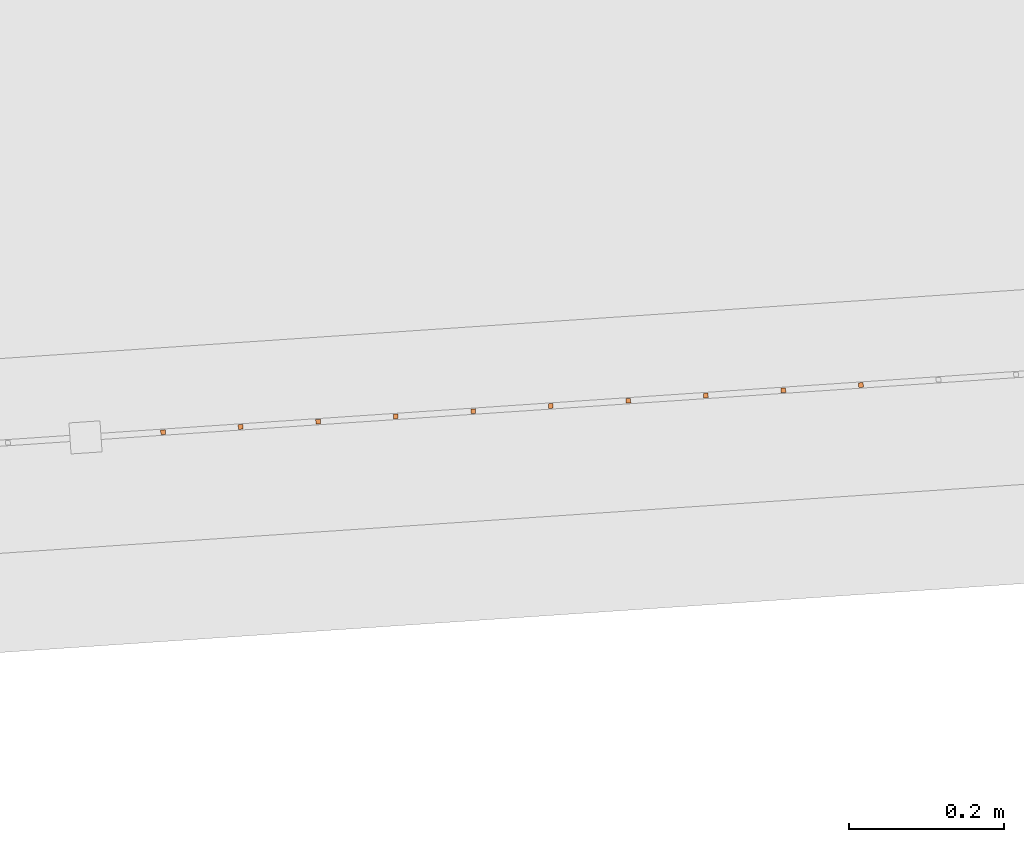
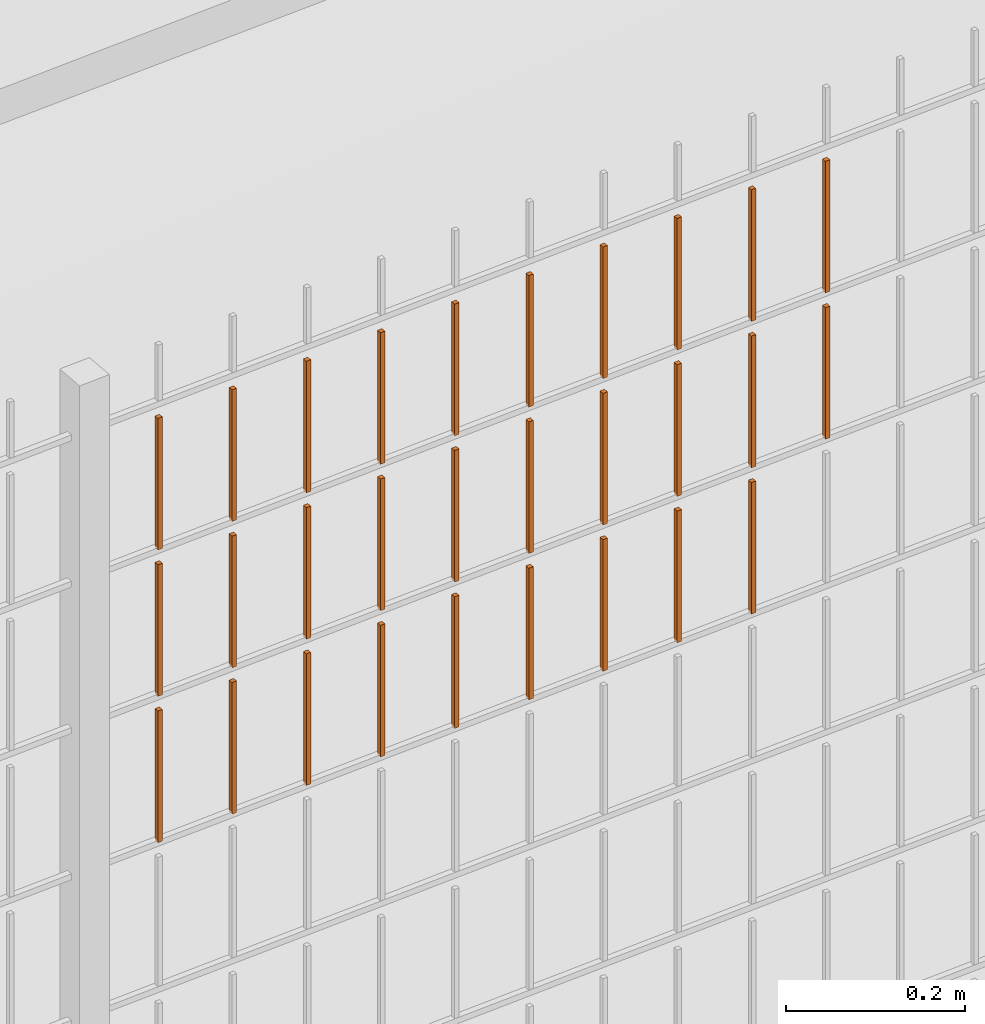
# One storey, part 279 of 1809: 29 proxies, 1 element without a shape of its own.
"""IFC2X3 building model written with IfcOpenShell, lengths in millimetres."""

from ifc_helpers import new_model, entity, si_unit, converted_unit, derived_unit, money_unit, direction, frame, origin_with_axes, place, context, subcontext, project, spatial, faceted_brep, source, transform, mapped, material, type_object, element, aggregate, save


model = new_model("IFC2X3")

# Units and contexts
model_context = context("Model", 3, precision=0.01, world=origin_with_axes(), true_north=direction((0.0, 1.0)))
body_context = subcontext(model_context, "Body", "Model", "MODEL_VIEW")
ifc_project = project(units=[si_unit("LENGTHUNIT", "METRE", prefix="MILLI"), si_unit("AREAUNIT", "SQUARE_METRE"), si_unit("VOLUMEUNIT", "CUBIC_METRE"), converted_unit("PLANEANGLEUNIT", "DEGREE", entity("IfcPlaneAngleMeasure", 0.0174532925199), si_unit("PLANEANGLEUNIT", "RADIAN"), dimensions=[0, 0, 0, 0, 0, 0, 0]), si_unit("SOLIDANGLEUNIT", "STERADIAN"), money_unit("EUR"), converted_unit("TIMEUNIT", "Year", entity("IfcTimeMeasure", 31556926.0), si_unit("TIMEUNIT", "SECOND"), dimensions=[0, 0, 1, 0, 0, 0, 0]), si_unit("MASSUNIT", "GRAM", prefix="KILO"), si_unit("THERMODYNAMICTEMPERATUREUNIT", "DEGREE_CELSIUS"), si_unit("LUMINOUSINTENSITYUNIT", "LUMEN"), si_unit("ENERGYUNIT", "JOULE", prefix="MEGA"), derived_unit("THERMALCONDUCTANCEUNIT", [(si_unit("POWERUNIT", "WATT"), 1), (si_unit("LENGTHUNIT", "METRE"), -1), (si_unit("THERMODYNAMICTEMPERATUREUNIT", "KELVIN"), -1)]), derived_unit("SPECIFICHEATCAPACITYUNIT", [(si_unit("ENERGYUNIT", "JOULE"), 1), (si_unit("MASSUNIT", "GRAM", prefix="KILO"), -1), (si_unit("THERMODYNAMICTEMPERATUREUNIT", "KELVIN"), -1)]), derived_unit("MASSDENSITYUNIT", [(si_unit("MASSUNIT", "GRAM", prefix="KILO"), 1), (si_unit("VOLUMEUNIT", "CUBIC_METRE"), -1)])], contexts=[model_context])

# Site, building, storey
site_placement = place(None, origin_with_axes())
site = spatial("IfcSite", under=ifc_project, at=site_placement, Name="Politse- ja Piirivalveameti ning Päästeameti ühishoone", CompositionType="ELEMENT")
building_placement = place(site_placement, origin_with_axes())
building = spatial("IfcBuilding", under=site, at=building_placement, Name="Politse- ja Piirivalveameti ning Päästeameti ühishoone", CompositionType="ELEMENT")
storey_placement = place(building_placement, origin_with_axes())
storey = spatial("IfcBuildingStorey", under=building, at=storey_placement, Name="Esimene korrus", CompositionType="ELEMENT", Elevation=0.0)

# Proxies
building_element_proxy_type_1 = type_object("IfcBuildingElementProxyType", Name="Railing Type", PredefinedType="NOTDEFINED")
proxy_1_placement = place(storey_placement, frame((89252.001212, -29183.4766571, 203.661247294), z_axis=(0.0, 0.0, 1.0), x_axis=(1.0, 0.0, 0.0)))
proxy_1 = element("IfcBuildingElementProxy", 1, at=proxy_1_placement, inside=storey, type_object=building_element_proxy_type_1, Name="PIIRDEAED")
ifc_material = material(Name="ET-03_Raud")
building_element_proxy_type_2 = type_object("IfcBuildingElementProxyType", Name="IfcBuildingElementProxy", PredefinedType="NOTDEFINED")
shared_shape_1 = source(origin_with_axes(), body_context, "Body", "Brep", [
    faceted_brep([(3.0, 3.0, -0.000752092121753), (-3.0, 3.0, -0.000752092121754), (-3.0, 3.0, 179.99926046), (3.0, 3.0, 179.99926046), (3.0, -3.0, 0.000752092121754), (-3.0, -3.0, 0.000752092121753), (-3.0, -3.0, 180.000764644), (3.0, -3.0, 180.000764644)], [[[0, 1, 2, 3]], [[0, 4, 5, 1]], [[1, 5, 6, 2]], [[3, 2, 6, 7]], [[4, 0, 3, 7]], [[5, 4, 7, 6]]]),
])
proxy_2_placement = place(proxy_1_placement, frame((-52107.9521734, -20817.4702826, 1814.14129199), z_axis=(0.0, 0.0, 1.0), x_axis=(1.0, 0.0, 0.0)))
proxy_2 = element("IfcBuildingElementProxy", 2, at=proxy_2_placement, type_object=building_element_proxy_type_2, material=ifc_material, Name="BALUSTER - 001", context=body_context, shape_type="MappedRepresentation", body=[
    mapped(shared_shape_1, transform((0.0, 0.0, 0.0), x_axis=(-0.0673926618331, 0.997726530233, 0.0), y_axis=(-0.997726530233, -0.0673926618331, 0.0), z_axis=(0.0, 0.0, 1.0))),
])
shared_shape_2 = source(origin_with_axes(), body_context, "Body", "Brep", [
    faceted_brep([(3.0, 3.0, -0.000752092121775), (-3.0, 3.0, -0.000752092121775), (-3.0, 3.0, 179.99926046), (3.0, 3.0, 179.99926046), (3.0, -3.0, 0.000752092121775), (-3.0, -3.0, 0.000752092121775), (-3.0, -3.0, 180.000764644), (3.0, -3.0, 180.000764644)], [[[0, 1, 2, 3]], [[0, 4, 5, 1]], [[1, 5, 6, 2]], [[3, 2, 6, 7]], [[4, 0, 3, 7]], [[5, 4, 7, 6]]]),
])
proxy_3_placement = place(proxy_1_placement, frame((-51808.6342143, -20797.252484, 1814.2165012), z_axis=(0.0, 0.0, 1.0), x_axis=(1.0, 0.0, 0.0)))
proxy_3 = element("IfcBuildingElementProxy", 3, at=proxy_3_placement, type_object=building_element_proxy_type_2, material=ifc_material, Name="BALUSTER - 001", context=body_context, shape_type="MappedRepresentation", body=[
    mapped(shared_shape_2, transform((0.0, 0.0, 0.0), x_axis=(-0.0673926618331, 0.997726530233, 0.0), y_axis=(-0.997726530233, -0.0673926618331, 0.0), z_axis=(0.0, 0.0, 1.0))),
])
shared_shape_3 = source(origin_with_axes(), body_context, "Body", "Brep", [
    faceted_brep([(3.0, 3.0, -0.000752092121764), (-3.0, 3.0, -0.000752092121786), (-3.0, 3.0, 179.99926046), (3.0, 3.0, 179.99926046), (3.0, -3.0, 0.000752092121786), (-3.0, -3.0, 0.000752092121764), (-3.0, -3.0, 180.000764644), (3.0, -3.0, 180.000764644)], [[[0, 1, 2, 3]], [[0, 4, 5, 1]], [[1, 5, 6, 2]], [[3, 2, 6, 7]], [[4, 0, 3, 7]], [[5, 4, 7, 6]]]),
])
proxy_4_placement = place(proxy_1_placement, frame((-51708.8615613, -20790.5132179, 1414.24157094), z_axis=(0.0, 0.0, 1.0), x_axis=(1.0, 0.0, 0.0)))
proxy_4 = element("IfcBuildingElementProxy", 4, at=proxy_4_placement, type_object=building_element_proxy_type_2, material=ifc_material, Name="BALUSTER - 001", context=body_context, shape_type="MappedRepresentation", body=[
    mapped(shared_shape_3, transform((0.0, 0.0, 0.0), x_axis=(-0.0673926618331, 0.997726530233, 0.0), y_axis=(-0.997726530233, -0.0673926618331, 0.0), z_axis=(0.0, 0.0, 1.0))),
])
proxy_5_placement = place(proxy_1_placement, frame((-51708.8615613, -20790.5132179, 1614.24157094), z_axis=(0.0, 0.0, 1.0), x_axis=(1.0, 0.0, 0.0)))
proxy_5 = element("IfcBuildingElementProxy", 5, at=proxy_5_placement, type_object=building_element_proxy_type_2, material=ifc_material, Name="BALUSTER - 001", context=body_context, shape_type="MappedRepresentation", body=[
    mapped(shared_shape_3, transform((0.0, 0.0, 0.0), x_axis=(-0.0673926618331, 0.997726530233, 0.0), y_axis=(-0.997726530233, -0.0673926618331, 0.0), z_axis=(0.0, 0.0, 1.0))),
])
shared_shape_4 = source(origin_with_axes(), body_context, "Body", "Brep", [
    faceted_brep([(3.0, 3.0, -0.000752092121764), (-3.0, 3.0, -0.000752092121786), (-3.0, 3.0, 179.99926046), (3.0, 3.0, 179.99926046), (3.0, -3.0, 0.000752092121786), (-3.0, -3.0, 0.000752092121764), (-3.0, -3.0, 180.000764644), (3.0, -3.0, 180.000764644)], [[[0, 1, 2, 3]], [[0, 4, 5, 1]], [[1, 5, 6, 2]], [[3, 2, 6, 7]], [[4, 0, 3, 7]], [[5, 4, 7, 6]]]),
])
proxy_6_placement = place(proxy_1_placement, frame((-51708.8615613, -20790.5132179, 1814.24157094), z_axis=(0.0, 0.0, 1.0), x_axis=(1.0, 0.0, 0.0)))
proxy_6 = element("IfcBuildingElementProxy", 6, at=proxy_6_placement, type_object=building_element_proxy_type_2, material=ifc_material, Name="BALUSTER - 001", context=body_context, shape_type="MappedRepresentation", body=[
    mapped(shared_shape_4, transform((0.0, 0.0, 0.0), x_axis=(-0.0673926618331, 0.997726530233, 0.0), y_axis=(-0.997726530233, -0.0673926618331, 0.0), z_axis=(0.0, 0.0, 1.0))),
])
shared_shape_5 = source(origin_with_axes(), body_context, "Body", "Brep", [
    faceted_brep([(3.0, 3.0, -0.000752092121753), (-3.0, 3.0, -0.000752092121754), (-3.0, 3.0, 179.99926046), (3.0, 3.0, 179.99926046), (3.0, -3.0, 0.000752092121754), (-3.0, -3.0, 0.000752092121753), (-3.0, -3.0, 180.000764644), (3.0, -3.0, 180.000764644)], [[[0, 1, 2, 3]], [[0, 4, 5, 1]], [[1, 5, 6, 2]], [[3, 2, 6, 7]], [[4, 0, 3, 7]], [[5, 4, 7, 6]]]),
])
proxy_7_placement = place(proxy_1_placement, frame((-52107.9521734, -20817.4702826, 1414.14129199), z_axis=(0.0, 0.0, 1.0), x_axis=(1.0, 0.0, 0.0)))
proxy_7 = element("IfcBuildingElementProxy", 7, at=proxy_7_placement, type_object=building_element_proxy_type_2, material=ifc_material, Name="BALUSTER - 001", context=body_context, shape_type="MappedRepresentation", body=[
    mapped(shared_shape_5, transform((0.0, 0.0, 0.0), x_axis=(-0.0673926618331, 0.997726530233, 0.0), y_axis=(-0.997726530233, -0.0673926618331, 0.0), z_axis=(0.0, 0.0, 1.0))),
])
proxy_8_placement = place(proxy_1_placement, frame((-52107.9521734, -20817.4702826, 1614.14129199), z_axis=(0.0, 0.0, 1.0), x_axis=(1.0, 0.0, 0.0)))
proxy_8 = element("IfcBuildingElementProxy", 8, at=proxy_8_placement, type_object=building_element_proxy_type_2, material=ifc_material, Name="BALUSTER - 001", context=body_context, shape_type="MappedRepresentation", body=[
    mapped(shared_shape_5, transform((0.0, 0.0, 0.0), x_axis=(-0.0673926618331, 0.997726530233, 0.0), y_axis=(-0.997726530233, -0.0673926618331, 0.0), z_axis=(0.0, 0.0, 1.0))),
])
shared_shape_6 = source(origin_with_axes(), body_context, "Body", "Brep", [
    faceted_brep([(3.0, 3.0, -0.000752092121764), (-3.0, 3.0, -0.000752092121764), (-3.0, 3.0, 179.99926046), (3.0, 3.0, 179.99926046), (3.0, -3.0, 0.000752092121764), (-3.0, -3.0, 0.000752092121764), (-3.0, -3.0, 180.000764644), (3.0, -3.0, 180.000764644)], [[[0, 1, 2, 3]], [[0, 4, 5, 1]], [[1, 5, 6, 2]], [[3, 2, 6, 7]], [[4, 0, 3, 7]], [[5, 4, 7, 6]]]),
])
proxy_9_placement = place(proxy_1_placement, frame((-51309.7709492, -20763.5561531, 1814.34184989), z_axis=(0.0, 0.0, 1.0), x_axis=(1.0, 0.0, 0.0)))
proxy_9 = element("IfcBuildingElementProxy", 9, at=proxy_9_placement, type_object=building_element_proxy_type_2, material=ifc_material, Name="BALUSTER - 001", context=body_context, shape_type="MappedRepresentation", body=[
    mapped(shared_shape_6, transform((0.0, 0.0, 0.0), x_axis=(-0.0673926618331, 0.997726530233, 0.0), y_axis=(-0.997726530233, -0.0673926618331, 0.0), z_axis=(0.0, 0.0, 1.0))),
])
shared_shape_7 = source(origin_with_axes(), body_context, "Body", "Brep", [
    faceted_brep([(3.0, 3.0, -0.000752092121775), (-3.0, 3.0, -0.000752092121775), (-3.0, 3.0, 179.99926046), (3.0, 3.0, 179.99926046), (3.0, -3.0, 0.000752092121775), (-3.0, -3.0, 0.000752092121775), (-3.0, -3.0, 180.000764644), (3.0, -3.0, 180.000764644)], [[[0, 1, 2, 3]], [[0, 4, 5, 1]], [[1, 5, 6, 2]], [[3, 2, 6, 7]], [[4, 0, 3, 7]], [[5, 4, 7, 6]]]),
])
proxy_10_placement = place(proxy_1_placement, frame((-51808.6342143, -20797.252484, 1414.2165012), z_axis=(0.0, 0.0, 1.0), x_axis=(1.0, 0.0, 0.0)))
proxy_10 = element("IfcBuildingElementProxy", 10, at=proxy_10_placement, type_object=building_element_proxy_type_2, material=ifc_material, Name="BALUSTER - 001", context=body_context, shape_type="MappedRepresentation", body=[
    mapped(shared_shape_7, transform((0.0, 0.0, 0.0), x_axis=(-0.0673926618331, 0.997726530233, 0.0), y_axis=(-0.997726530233, -0.0673926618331, 0.0), z_axis=(0.0, 0.0, 1.0))),
])
proxy_11_placement = place(proxy_1_placement, frame((-51808.6342143, -20797.252484, 1614.2165012), z_axis=(0.0, 0.0, 1.0), x_axis=(1.0, 0.0, 0.0)))
proxy_11 = element("IfcBuildingElementProxy", 11, at=proxy_11_placement, type_object=building_element_proxy_type_2, material=ifc_material, Name="BALUSTER - 001", context=body_context, shape_type="MappedRepresentation", body=[
    mapped(shared_shape_7, transform((0.0, 0.0, 0.0), x_axis=(-0.0673926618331, 0.997726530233, 0.0), y_axis=(-0.997726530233, -0.0673926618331, 0.0), z_axis=(0.0, 0.0, 1.0))),
])
shared_shape_8 = source(origin_with_axes(), body_context, "Body", "Brep", [
    faceted_brep([(3.0, 3.0, -0.000752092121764), (-3.0, 3.0, -0.000752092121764), (-3.0, 3.0, 179.99926046), (3.0, 3.0, 179.99926046), (3.0, -3.0, 0.000752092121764), (-3.0, -3.0, 0.000752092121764), (-3.0, -3.0, 180.000764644), (3.0, -3.0, 180.000764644)], [[[0, 1, 2, 3]], [[0, 4, 5, 1]], [[1, 5, 6, 2]], [[3, 2, 6, 7]], [[4, 0, 3, 7]], [[5, 4, 7, 6]]]),
])
proxy_12_placement = place(proxy_1_placement, frame((-51609.0889082, -20783.7739517, 1414.26664067), z_axis=(0.0, 0.0, 1.0), x_axis=(1.0, 0.0, 0.0)))
proxy_12 = element("IfcBuildingElementProxy", 12, at=proxy_12_placement, type_object=building_element_proxy_type_2, material=ifc_material, Name="BALUSTER - 001", context=body_context, shape_type="MappedRepresentation", body=[
    mapped(shared_shape_8, transform((0.0, 0.0, 0.0), x_axis=(-0.0673926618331, 0.997726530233, 0.0), y_axis=(-0.997726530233, -0.0673926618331, 0.0), z_axis=(0.0, 0.0, 1.0))),
])
proxy_13_placement = place(proxy_1_placement, frame((-51908.4068673, -20803.9917502, 1414.19143146), z_axis=(0.0, 0.0, 1.0), x_axis=(1.0, 0.0, 0.0)))
proxy_13 = element("IfcBuildingElementProxy", 13, at=proxy_13_placement, type_object=building_element_proxy_type_2, material=ifc_material, Name="BALUSTER - 001", context=body_context, shape_type="MappedRepresentation", body=[
    mapped(shared_shape_8, transform((0.0, 0.0, 0.0), x_axis=(-0.0673926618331, 0.997726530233, 0.0), y_axis=(-0.997726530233, -0.0673926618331, 0.0), z_axis=(0.0, 0.0, 1.0))),
])
proxy_14_placement = place(proxy_1_placement, frame((-51609.0889082, -20783.7739517, 1614.26664067), z_axis=(0.0, 0.0, 1.0), x_axis=(1.0, 0.0, 0.0)))
proxy_14 = element("IfcBuildingElementProxy", 14, at=proxy_14_placement, type_object=building_element_proxy_type_2, material=ifc_material, Name="BALUSTER - 001", context=body_context, shape_type="MappedRepresentation", body=[
    mapped(shared_shape_8, transform((0.0, 0.0, 0.0), x_axis=(-0.0673926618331, 0.997726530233, 0.0), y_axis=(-0.997726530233, -0.0673926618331, 0.0), z_axis=(0.0, 0.0, 1.0))),
])
proxy_15_placement = place(proxy_1_placement, frame((-51908.4068673, -20803.9917502, 1614.19143146), z_axis=(0.0, 0.0, 1.0), x_axis=(1.0, 0.0, 0.0)))
proxy_15 = element("IfcBuildingElementProxy", 15, at=proxy_15_placement, type_object=building_element_proxy_type_2, material=ifc_material, Name="BALUSTER - 001", context=body_context, shape_type="MappedRepresentation", body=[
    mapped(shared_shape_8, transform((0.0, 0.0, 0.0), x_axis=(-0.0673926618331, 0.997726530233, 0.0), y_axis=(-0.997726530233, -0.0673926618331, 0.0), z_axis=(0.0, 0.0, 1.0))),
])
shared_shape_9 = source(origin_with_axes(), body_context, "Body", "Brep", [
    faceted_brep([(3.0, 3.0, -0.000752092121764), (-3.0, 3.0, -0.000752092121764), (-3.0, 3.0, 179.99926046), (3.0, 3.0, 179.99926046), (3.0, -3.0, 0.000752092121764), (-3.0, -3.0, 0.000752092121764), (-3.0, -3.0, 180.000764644), (3.0, -3.0, 180.000764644)], [[[0, 1, 2, 3]], [[0, 4, 5, 1]], [[1, 5, 6, 2]], [[3, 2, 6, 7]], [[4, 0, 3, 7]], [[5, 4, 7, 6]]]),
])
proxy_16_placement = place(proxy_1_placement, frame((-51609.0889082, -20783.7739517, 1814.26664067), z_axis=(0.0, 0.0, 1.0), x_axis=(1.0, 0.0, 0.0)))
proxy_16 = element("IfcBuildingElementProxy", 16, at=proxy_16_placement, type_object=building_element_proxy_type_2, material=ifc_material, Name="BALUSTER - 001", context=body_context, shape_type="MappedRepresentation", body=[
    mapped(shared_shape_9, transform((0.0, 0.0, 0.0), x_axis=(-0.0673926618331, 0.997726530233, 0.0), y_axis=(-0.997726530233, -0.0673926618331, 0.0), z_axis=(0.0, 0.0, 1.0))),
])
shared_shape_10 = source(origin_with_axes(), body_context, "Body", "Brep", [
    faceted_brep([(3.0, 3.0, -0.000752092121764), (-3.0, 3.0, -0.000752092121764), (-3.0, 3.0, 179.99926046), (3.0, 3.0, 179.99926046), (3.0, -3.0, 0.000752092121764), (-3.0, -3.0, 0.000752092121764), (-3.0, -3.0, 180.000764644), (3.0, -3.0, 180.000764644)], [[[0, 1, 2, 3]], [[0, 4, 5, 1]], [[1, 5, 6, 2]], [[3, 2, 6, 7]], [[4, 0, 3, 7]], [[5, 4, 7, 6]]]),
])
proxy_17_placement = place(proxy_1_placement, frame((-51409.5436022, -20770.2954193, 1814.31678015), z_axis=(0.0, 0.0, 1.0), x_axis=(1.0, 0.0, 0.0)))
proxy_17 = element("IfcBuildingElementProxy", 17, at=proxy_17_placement, type_object=building_element_proxy_type_2, material=ifc_material, Name="BALUSTER - 001", context=body_context, shape_type="MappedRepresentation", body=[
    mapped(shared_shape_10, transform((0.0, 0.0, 0.0), x_axis=(-0.0673926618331, 0.997726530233, 0.0), y_axis=(-0.997726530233, -0.0673926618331, 0.0), z_axis=(0.0, 0.0, 1.0))),
])
proxy_18_placement = place(proxy_1_placement, frame((-51908.4068673, -20803.9917502, 1814.19143146), z_axis=(0.0, 0.0, 1.0), x_axis=(1.0, 0.0, 0.0)))
proxy_18 = element("IfcBuildingElementProxy", 18, at=proxy_18_placement, type_object=building_element_proxy_type_2, material=ifc_material, Name="BALUSTER - 001", context=body_context, shape_type="MappedRepresentation", body=[
    mapped(shared_shape_10, transform((0.0, 0.0, 0.0), x_axis=(-0.0673926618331, 0.997726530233, 0.0), y_axis=(-0.997726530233, -0.0673926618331, 0.0), z_axis=(0.0, 0.0, 1.0))),
])
shared_shape_11 = source(origin_with_axes(), body_context, "Body", "Brep", [
    faceted_brep([(3.0, 3.0, -0.000752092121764), (-3.0, 3.0, -0.000752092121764), (-3.0, 3.0, 179.99926046), (3.0, 3.0, 179.99926046), (3.0, -3.0, 0.000752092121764), (-3.0, -3.0, 0.000752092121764), (-3.0, -3.0, 180.000764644), (3.0, -3.0, 180.000764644)], [[[0, 1, 2, 3]], [[0, 4, 5, 1]], [[1, 5, 6, 2]], [[3, 2, 6, 7]], [[4, 0, 3, 7]], [[5, 4, 7, 6]]]),
])
proxy_19_placement = place(proxy_1_placement, frame((-51209.9982961, -20756.8168869, 1614.36691962), z_axis=(0.0, 0.0, 1.0), x_axis=(1.0, 0.0, 0.0)))
proxy_19 = element("IfcBuildingElementProxy", 19, at=proxy_19_placement, type_object=building_element_proxy_type_2, material=ifc_material, Name="BALUSTER - 001", context=body_context, shape_type="MappedRepresentation", body=[
    mapped(shared_shape_11, transform((0.0, 0.0, 0.0), x_axis=(-0.0673926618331, 0.997726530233, 0.0), y_axis=(-0.997726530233, -0.0673926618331, 0.0), z_axis=(0.0, 0.0, 1.0))),
])
shared_shape_12 = source(origin_with_axes(), body_context, "Body", "Brep", [
    faceted_brep([(3.0, 3.0, -0.000752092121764), (-3.0, 3.0, -0.000752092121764), (-3.0, 3.0, 179.99926046), (3.0, 3.0, 179.99926046), (3.0, -3.0, 0.000752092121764), (-3.0, -3.0, 0.000752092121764), (-3.0, -3.0, 180.000764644), (3.0, -3.0, 180.000764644)], [[[0, 1, 2, 3]], [[0, 4, 5, 1]], [[1, 5, 6, 2]], [[3, 2, 6, 7]], [[4, 0, 3, 7]], [[5, 4, 7, 6]]]),
])
proxy_20_placement = place(proxy_1_placement, frame((-51309.7709492, -20763.5561531, 1414.34184989), z_axis=(0.0, 0.0, 1.0), x_axis=(1.0, 0.0, 0.0)))
proxy_20 = element("IfcBuildingElementProxy", 20, at=proxy_20_placement, type_object=building_element_proxy_type_2, material=ifc_material, Name="BALUSTER - 001", context=body_context, shape_type="MappedRepresentation", body=[
    mapped(shared_shape_12, transform((0.0, 0.0, 0.0), x_axis=(-0.0673926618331, 0.997726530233, 0.0), y_axis=(-0.997726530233, -0.0673926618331, 0.0), z_axis=(0.0, 0.0, 1.0))),
])
proxy_21_placement = place(proxy_1_placement, frame((-51309.7709492, -20763.5561531, 1614.34184989), z_axis=(0.0, 0.0, 1.0), x_axis=(1.0, 0.0, 0.0)))
proxy_21 = element("IfcBuildingElementProxy", 21, at=proxy_21_placement, type_object=building_element_proxy_type_2, material=ifc_material, Name="BALUSTER - 001", context=body_context, shape_type="MappedRepresentation", body=[
    mapped(shared_shape_12, transform((0.0, 0.0, 0.0), x_axis=(-0.0673926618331, 0.997726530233, 0.0), y_axis=(-0.997726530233, -0.0673926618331, 0.0), z_axis=(0.0, 0.0, 1.0))),
])
shared_shape_13 = source(origin_with_axes(), body_context, "Body", "Brep", [
    faceted_brep([(3.0, 3.0, -0.000752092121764), (-3.0, 3.0, -0.000752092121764), (-3.0, 3.0, 179.99926046), (3.0, 3.0, 179.99926046), (3.0, -3.0, 0.000752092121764), (-3.0, -3.0, 0.000752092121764), (-3.0, -3.0, 180.000764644), (3.0, -3.0, 180.000764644)], [[[0, 1, 2, 3]], [[0, 4, 5, 1]], [[1, 5, 6, 2]], [[3, 2, 6, 7]], [[4, 0, 3, 7]], [[5, 4, 7, 6]]]),
])
proxy_22_placement = place(proxy_1_placement, frame((-51209.9982961, -20756.8168869, 1814.36691962), z_axis=(0.0, 0.0, 1.0), x_axis=(1.0, 0.0, 0.0)))
proxy_22 = element("IfcBuildingElementProxy", 22, at=proxy_22_placement, type_object=building_element_proxy_type_2, material=ifc_material, Name="BALUSTER - 001", context=body_context, shape_type="MappedRepresentation", body=[
    mapped(shared_shape_13, transform((0.0, 0.0, 0.0), x_axis=(-0.0673926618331, 0.997726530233, 0.0), y_axis=(-0.997726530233, -0.0673926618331, 0.0), z_axis=(0.0, 0.0, 1.0))),
])
shared_shape_14 = source(origin_with_axes(), body_context, "Body", "Brep", [
    faceted_brep([(3.0, 3.0, -0.000752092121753), (-3.0, 3.0, -0.000752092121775), (-3.0, 3.0, 179.99926046), (3.0, 3.0, 179.99926046), (3.0, -3.0, 0.000752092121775), (-3.0, -3.0, 0.000752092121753), (-3.0, -3.0, 180.000764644), (3.0, -3.0, 180.000764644)], [[[0, 1, 2, 3]], [[0, 4, 5, 1]], [[1, 5, 6, 2]], [[3, 2, 6, 7]], [[4, 0, 3, 7]], [[5, 4, 7, 6]]]),
])
proxy_23_placement = place(proxy_1_placement, frame((-52008.1795203, -20810.7310164, 1814.16636173), z_axis=(0.0, 0.0, 1.0), x_axis=(1.0, 0.0, 0.0)))
proxy_23 = element("IfcBuildingElementProxy", 23, at=proxy_23_placement, type_object=building_element_proxy_type_2, material=ifc_material, Name="BALUSTER - 001", context=body_context, shape_type="MappedRepresentation", body=[
    mapped(shared_shape_14, transform((0.0, 0.0, 0.0), x_axis=(-0.0673926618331, 0.997726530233, 0.0), y_axis=(-0.997726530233, -0.0673926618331, 0.0), z_axis=(0.0, 0.0, 1.0))),
])
shared_shape_15 = source(origin_with_axes(), body_context, "Body", "Brep", [
    faceted_brep([(3.0, 3.0, -0.000752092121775), (-3.0, 3.0, -0.000752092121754), (-3.0, 3.0, 179.99926046), (3.0, 3.0, 179.99926046), (3.0, -3.0, 0.000752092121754), (-3.0, -3.0, 0.000752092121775), (-3.0, -3.0, 180.000764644), (3.0, -3.0, 180.000764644)], [[[0, 1, 2, 3]], [[0, 4, 5, 1]], [[1, 5, 6, 2]], [[3, 2, 6, 7]], [[4, 0, 3, 7]], [[5, 4, 7, 6]]]),
])
proxy_24_placement = place(proxy_1_placement, frame((-51509.3162552, -20777.0346855, 1814.29171041), z_axis=(0.0, 0.0, 1.0), x_axis=(1.0, 0.0, 0.0)))
proxy_24 = element("IfcBuildingElementProxy", 24, at=proxy_24_placement, type_object=building_element_proxy_type_2, material=ifc_material, Name="BALUSTER - 001", context=body_context, shape_type="MappedRepresentation", body=[
    mapped(shared_shape_15, transform((0.0, 0.0, 0.0), x_axis=(-0.0673926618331, 0.997726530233, 0.0), y_axis=(-0.997726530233, -0.0673926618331, 0.0), z_axis=(0.0, 0.0, 1.0))),
])
shared_shape_16 = source(origin_with_axes(), body_context, "Body", "Brep", [
    faceted_brep([(3.0, 3.0, -0.000752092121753), (-3.0, 3.0, -0.000752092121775), (-3.0, 3.0, 179.99926046), (3.0, 3.0, 179.99926046), (3.0, -3.0, 0.000752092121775), (-3.0, -3.0, 0.000752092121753), (-3.0, -3.0, 180.000764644), (3.0, -3.0, 180.000764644)], [[[0, 1, 2, 3]], [[0, 4, 5, 1]], [[1, 5, 6, 2]], [[3, 2, 6, 7]], [[4, 0, 3, 7]], [[5, 4, 7, 6]]]),
])
proxy_25_placement = place(proxy_1_placement, frame((-52008.1795203, -20810.7310164, 1414.16636173), z_axis=(0.0, 0.0, 1.0), x_axis=(1.0, 0.0, 0.0)))
proxy_25 = element("IfcBuildingElementProxy", 25, at=proxy_25_placement, type_object=building_element_proxy_type_2, material=ifc_material, Name="BALUSTER - 001", context=body_context, shape_type="MappedRepresentation", body=[
    mapped(shared_shape_16, transform((0.0, 0.0, 0.0), x_axis=(-0.0673926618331, 0.997726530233, 0.0), y_axis=(-0.997726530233, -0.0673926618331, 0.0), z_axis=(0.0, 0.0, 1.0))),
])
proxy_26_placement = place(proxy_1_placement, frame((-52008.1795203, -20810.7310164, 1614.16636173), z_axis=(0.0, 0.0, 1.0), x_axis=(1.0, 0.0, 0.0)))
proxy_26 = element("IfcBuildingElementProxy", 26, at=proxy_26_placement, type_object=building_element_proxy_type_2, material=ifc_material, Name="BALUSTER - 001", context=body_context, shape_type="MappedRepresentation", body=[
    mapped(shared_shape_16, transform((0.0, 0.0, 0.0), x_axis=(-0.0673926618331, 0.997726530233, 0.0), y_axis=(-0.997726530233, -0.0673926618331, 0.0), z_axis=(0.0, 0.0, 1.0))),
])
shared_shape_17 = source(origin_with_axes(), body_context, "Body", "Brep", [
    faceted_brep([(3.0, 3.0, -0.000752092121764), (-3.0, 3.0, -0.000752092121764), (-3.0, 3.0, 179.99926046), (3.0, 3.0, 179.99926046), (3.0, -3.0, 0.000752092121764), (-3.0, -3.0, 0.000752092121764), (-3.0, -3.0, 180.000764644), (3.0, -3.0, 180.000764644)], [[[0, 1, 2, 3]], [[0, 4, 5, 1]], [[1, 5, 6, 2]], [[3, 2, 6, 7]], [[4, 0, 3, 7]], [[5, 4, 7, 6]]]),
])
proxy_27_placement = place(proxy_1_placement, frame((-51409.5436022, -20770.2954193, 1414.31678015), z_axis=(0.0, 0.0, 1.0), x_axis=(1.0, 0.0, 0.0)))
proxy_27 = element("IfcBuildingElementProxy", 27, at=proxy_27_placement, type_object=building_element_proxy_type_2, material=ifc_material, Name="BALUSTER - 001", context=body_context, shape_type="MappedRepresentation", body=[
    mapped(shared_shape_17, transform((0.0, 0.0, 0.0), x_axis=(-0.0673926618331, 0.997726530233, 0.0), y_axis=(-0.997726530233, -0.0673926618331, 0.0), z_axis=(0.0, 0.0, 1.0))),
])
proxy_28_placement = place(proxy_1_placement, frame((-51409.5436022, -20770.2954193, 1614.31678015), z_axis=(0.0, 0.0, 1.0), x_axis=(1.0, 0.0, 0.0)))
proxy_28 = element("IfcBuildingElementProxy", 28, at=proxy_28_placement, type_object=building_element_proxy_type_2, material=ifc_material, Name="BALUSTER - 001", context=body_context, shape_type="MappedRepresentation", body=[
    mapped(shared_shape_17, transform((0.0, 0.0, 0.0), x_axis=(-0.0673926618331, 0.997726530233, 0.0), y_axis=(-0.997726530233, -0.0673926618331, 0.0), z_axis=(0.0, 0.0, 1.0))),
])
shared_shape_18 = source(origin_with_axes(), body_context, "Body", "Brep", [
    faceted_brep([(3.0, 3.0, -0.000752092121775), (-3.0, 3.0, -0.000752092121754), (-3.0, 3.0, 179.99926046), (3.0, 3.0, 179.99926046), (3.0, -3.0, 0.000752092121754), (-3.0, -3.0, 0.000752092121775), (-3.0, -3.0, 180.000764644), (3.0, -3.0, 180.000764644)], [[[0, 1, 2, 3]], [[0, 4, 5, 1]], [[1, 5, 6, 2]], [[3, 2, 6, 7]], [[4, 0, 3, 7]], [[5, 4, 7, 6]]]),
])
proxy_29_placement = place(proxy_1_placement, frame((-51509.3162552, -20777.0346855, 1414.29171041), z_axis=(0.0, 0.0, 1.0), x_axis=(1.0, 0.0, 0.0)))
proxy_29 = element("IfcBuildingElementProxy", 29, at=proxy_29_placement, type_object=building_element_proxy_type_2, material=ifc_material, Name="BALUSTER - 001", context=body_context, shape_type="MappedRepresentation", body=[
    mapped(shared_shape_18, transform((0.0, 0.0, 0.0), x_axis=(-0.0673926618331, 0.997726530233, 0.0), y_axis=(-0.997726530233, -0.0673926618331, 0.0), z_axis=(0.0, 0.0, 1.0))),
])
proxy_30_placement = place(proxy_1_placement, frame((-51509.3162552, -20777.0346855, 1614.29171041), z_axis=(0.0, 0.0, 1.0), x_axis=(1.0, 0.0, 0.0)))
proxy_30 = element("IfcBuildingElementProxy", 30, at=proxy_30_placement, type_object=building_element_proxy_type_2, material=ifc_material, Name="BALUSTER - 001", context=body_context, shape_type="MappedRepresentation", body=[
    mapped(shared_shape_18, transform((0.0, 0.0, 0.0), x_axis=(-0.0673926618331, 0.997726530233, 0.0), y_axis=(-0.997726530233, -0.0673926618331, 0.0), z_axis=(0.0, 0.0, 1.0))),
])
aggregate(proxy_1, [proxy_20, proxy_27, proxy_29, proxy_12, proxy_4, proxy_10, proxy_13, proxy_25, proxy_7, proxy_19, proxy_21, proxy_28, proxy_30, proxy_14, proxy_5, proxy_11, proxy_15, proxy_26, proxy_8, proxy_22, proxy_9, proxy_17, proxy_24, proxy_16, proxy_6, proxy_3, proxy_18, proxy_23, proxy_2])

save(model, "model.ifc")
